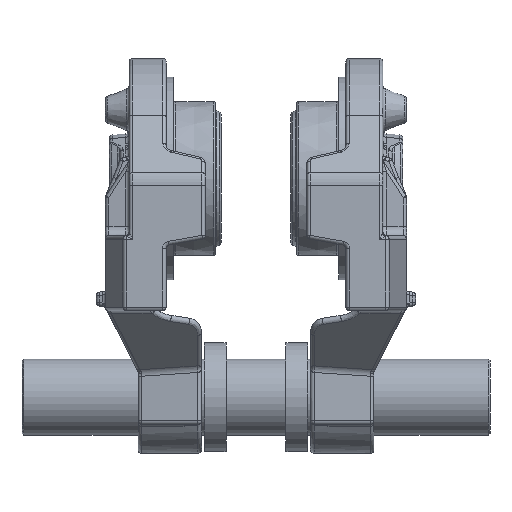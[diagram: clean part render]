
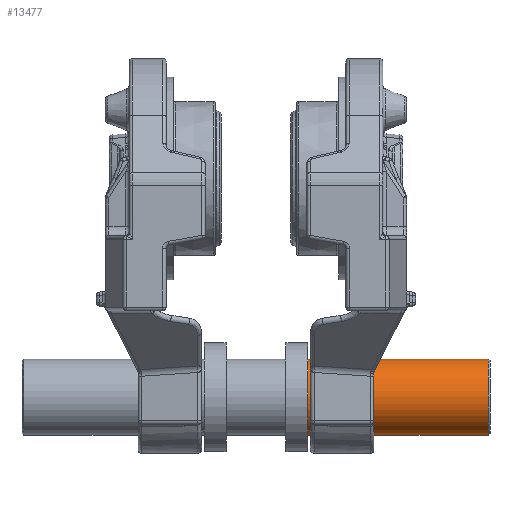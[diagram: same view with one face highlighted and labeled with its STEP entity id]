
A CAD part, front view. The second image highlights one B-rep face of the part: STEP entity #13477.
In plain terms, the highlighted cylindrical face has radius 21 mm (diameter 42 mm), a full revolution.
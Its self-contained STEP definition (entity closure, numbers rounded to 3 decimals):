
#1856=CYLINDRICAL_SURFACE('',#14453,21.);
#2321=FACE_OUTER_BOUND('',#3197,.T.);
#3197=EDGE_LOOP('',(#9426,#9427,#9428,#9429,#9430,#9431));
#4079=LINE('',#20457,#4694);
#4694=VECTOR('',#16282,21.);
#5304=CIRCLE('',#14421,21.);
#5305=CIRCLE('',#14422,21.);
#5308=CIRCLE('',#14425,21.);
#5325=CIRCLE('',#14451,21.);
#6170=VERTEX_POINT('',#20397);
#6171=VERTEX_POINT('',#20398);
#6172=VERTEX_POINT('',#20400);
#6191=VERTEX_POINT('',#20452);
#7348=EDGE_CURVE('',#6170,#6171,#5304,.T.);
#7349=EDGE_CURVE('',#6171,#6172,#5305,.T.);
#7353=EDGE_CURVE('',#6172,#6170,#5308,.T.);
#7373=EDGE_CURVE('',#6191,#6191,#5325,.T.);
#7375=EDGE_CURVE('',#6171,#6191,#4079,.T.);
#9426=ORIENTED_EDGE('',*,*,#7348,.F.);
#9427=ORIENTED_EDGE('',*,*,#7353,.F.);
#9428=ORIENTED_EDGE('',*,*,#7349,.F.);
#9429=ORIENTED_EDGE('',*,*,#7375,.T.);
#9430=ORIENTED_EDGE('',*,*,#7373,.T.);
#9431=ORIENTED_EDGE('',*,*,#7375,.F.);
#13477=ADVANCED_FACE('',(#2321),#1856,.T.);
#14421=AXIS2_PLACEMENT_3D('',#20399,#16211,#16212);
#14422=AXIS2_PLACEMENT_3D('',#20401,#16213,#16214);
#14425=AXIS2_PLACEMENT_3D('',#20407,#16220,#16221);
#14451=AXIS2_PLACEMENT_3D('',#20453,#16275,#16276);
#14453=AXIS2_PLACEMENT_3D('',#20456,#16280,#16281);
#16211=DIRECTION('center_axis',(1.,0.,0.));
#16212=DIRECTION('ref_axis',(0.,-1.,0.));
#16213=DIRECTION('center_axis',(1.,0.,0.));
#16214=DIRECTION('ref_axis',(0.,-1.,0.));
#16220=DIRECTION('center_axis',(1.,0.,0.));
#16221=DIRECTION('ref_axis',(0.,-1.,0.));
#16275=DIRECTION('center_axis',(1.,0.,0.));
#16276=DIRECTION('ref_axis',(0.,1.,0.));
#16280=DIRECTION('center_axis',(1.,0.,0.));
#16281=DIRECTION('ref_axis',(0.,1.,0.));
#16282=DIRECTION('',(-1.,0.,0.));
#20397=CARTESIAN_POINT('',(128.,0.,21.));
#20398=CARTESIAN_POINT('',(128.,-21.,0.));
#20399=CARTESIAN_POINT('Origin',(128.,0.,0.));
#20400=CARTESIAN_POINT('',(128.,21.,0.));
#20401=CARTESIAN_POINT('Origin',(128.,0.,0.));
#20407=CARTESIAN_POINT('Origin',(128.,0.,0.));
#20452=CARTESIAN_POINT('',(28.5,-21.,0.));
#20453=CARTESIAN_POINT('Origin',(28.5,0.,0.));
#20456=CARTESIAN_POINT('Origin',(0.,0.,0.));
#20457=CARTESIAN_POINT('',(0.,-21.,0.));
